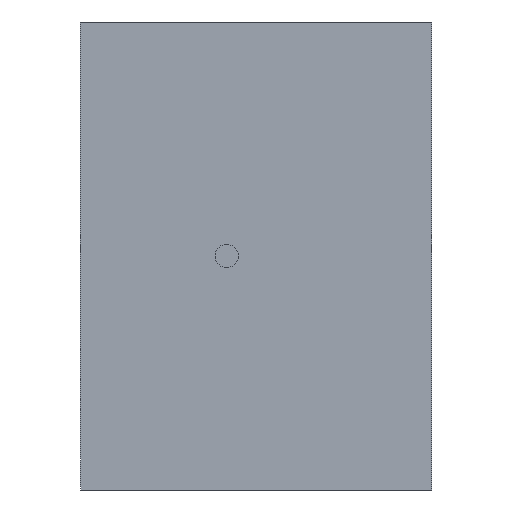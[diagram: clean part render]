
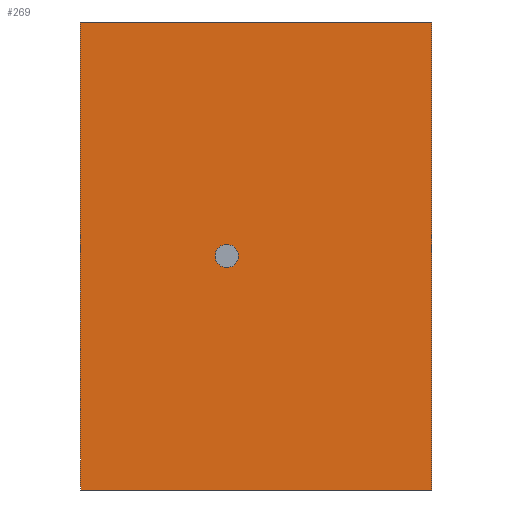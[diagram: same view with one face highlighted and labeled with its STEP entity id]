
A CAD part, left-side view. The second image highlights one B-rep face of the part: STEP entity #269.
In plain terms, the highlighted planar face has unit normal (-1, 0, 0).
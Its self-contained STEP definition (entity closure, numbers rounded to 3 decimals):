
#163=CARTESIAN_POINT('Axis2P3D Location',(0.,35.,0.)) ;
#167=CARTESIAN_POINT('Vertex',(0.,35.,2.)) ;
#169=CARTESIAN_POINT('Vertex',(0.,37.,0.)) ;
#172=CARTESIAN_POINT('Axis2P3D Location',(0.,35.,0.)) ;
#176=CARTESIAN_POINT('Vertex',(0.,35.,-2.)) ;
#203=CARTESIAN_POINT('Axis2P3D Location',(0.,35.,0.)) ;
#207=CARTESIAN_POINT('Vertex',(0.,33.,0.)) ;
#210=CARTESIAN_POINT('Axis2P3D Location',(0.,35.,0.)) ;
#224=CARTESIAN_POINT('Axis2P3D Location',(0.,0.,-0.)) ;
#229=CARTESIAN_POINT('Line Origine',(0.,60.,0.)) ;
#233=CARTESIAN_POINT('Vertex',(0.,60.,-40.)) ;
#235=CARTESIAN_POINT('Vertex',(0.,60.,40.)) ;
#238=CARTESIAN_POINT('Line Origine',(0.,30.,-40.)) ;
#242=CARTESIAN_POINT('Vertex',(0.,0.,-40.)) ;
#245=CARTESIAN_POINT('Line Origine',(0.,0.,0.)) ;
#249=CARTESIAN_POINT('Vertex',(0.,0.,40.)) ;
#252=CARTESIAN_POINT('Line Origine',(0.,30.,40.)) ;
#164=DIRECTION('Axis2P3D Direction',(1.,0.,0.)) ;
#173=DIRECTION('Axis2P3D Direction',(1.,0.,0.)) ;
#204=DIRECTION('Axis2P3D Direction',(1.,0.,-0.)) ;
#211=DIRECTION('Axis2P3D Direction',(1.,0.,-0.)) ;
#225=DIRECTION('Axis2P3D Direction',(1.,0.,-0.)) ;
#226=DIRECTION('Axis2P3D XDirection',(-0.,0.,-1.)) ;
#230=DIRECTION('Vector Direction',(0.,0.,1.)) ;
#239=DIRECTION('Vector Direction',(0.,1.,0.)) ;
#246=DIRECTION('Vector Direction',(0.,0.,-1.)) ;
#253=DIRECTION('Vector Direction',(0.,-1.,0.)) ;
#165=AXIS2_PLACEMENT_3D('Circle Axis2P3D',#163,#164,$) ;
#174=AXIS2_PLACEMENT_3D('Circle Axis2P3D',#172,#173,$) ;
#205=AXIS2_PLACEMENT_3D('Circle Axis2P3D',#203,#204,$) ;
#212=AXIS2_PLACEMENT_3D('Circle Axis2P3D',#210,#211,$) ;
#227=AXIS2_PLACEMENT_3D('Plane Axis2P3D',#224,#225,#226) ;
#258=ORIENTED_EDGE('',*,*,#237,.F.) ;
#259=ORIENTED_EDGE('',*,*,#244,.F.) ;
#260=ORIENTED_EDGE('',*,*,#251,.F.) ;
#261=ORIENTED_EDGE('',*,*,#256,.F.) ;
#264=ORIENTED_EDGE('',*,*,#171,.F.) ;
#265=ORIENTED_EDGE('',*,*,#214,.F.) ;
#266=ORIENTED_EDGE('',*,*,#209,.F.) ;
#267=ORIENTED_EDGE('',*,*,#178,.F.) ;
#268=FACE_BOUND('',#263,.T.) ;
#231=VECTOR('Line Direction',#230,1.) ;
#240=VECTOR('Line Direction',#239,1.) ;
#247=VECTOR('Line Direction',#246,1.) ;
#254=VECTOR('Line Direction',#253,1.) ;
#269=ADVANCED_FACE('750-040080',(#262,#268),#228,.F.) ;
#166=CIRCLE('generated circle',#165,2.) ;
#175=CIRCLE('generated circle',#174,2.) ;
#206=CIRCLE('generated circle',#205,2.) ;
#213=CIRCLE('generated circle',#212,2.) ;
#171=EDGE_CURVE('',#168,#170,#166,.F.) ;
#178=EDGE_CURVE('',#170,#177,#175,.F.) ;
#209=EDGE_CURVE('',#177,#208,#206,.F.) ;
#214=EDGE_CURVE('',#208,#168,#213,.F.) ;
#237=EDGE_CURVE('',#234,#236,#232,.T.) ;
#244=EDGE_CURVE('',#243,#234,#241,.T.) ;
#251=EDGE_CURVE('',#250,#243,#248,.T.) ;
#256=EDGE_CURVE('',#236,#250,#255,.T.) ;
#257=EDGE_LOOP('',(#258,#259,#260,#261)) ;
#263=EDGE_LOOP('',(#264,#265,#266,#267)) ;
#262=FACE_OUTER_BOUND('',#257,.T.) ;
#232=LINE('Line',#229,#231) ;
#241=LINE('Line',#238,#240) ;
#248=LINE('Line',#245,#247) ;
#255=LINE('Line',#252,#254) ;
#228=PLANE('Plane',#227) ;
#168=VERTEX_POINT('',#167) ;
#170=VERTEX_POINT('',#169) ;
#177=VERTEX_POINT('',#176) ;
#208=VERTEX_POINT('',#207) ;
#234=VERTEX_POINT('',#233) ;
#236=VERTEX_POINT('',#235) ;
#243=VERTEX_POINT('',#242) ;
#250=VERTEX_POINT('',#249) ;
